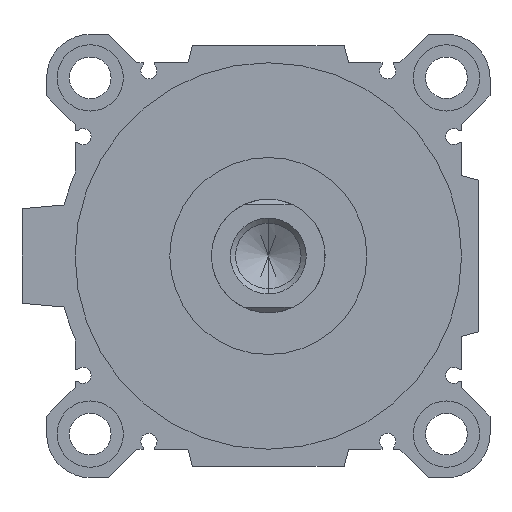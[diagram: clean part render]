
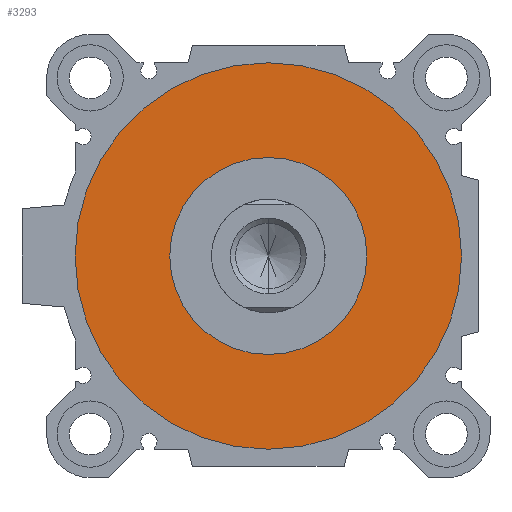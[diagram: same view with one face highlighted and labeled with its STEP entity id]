
A CAD part, left-side view. The second image highlights one B-rep face of the part: STEP entity #3293.
In plain terms, the highlighted planar face has unit normal (-1, 0, 0).
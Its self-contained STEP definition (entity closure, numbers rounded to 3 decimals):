
#115 = CARTESIAN_POINT ( 'NONE',  ( 6.5, 0., 0. ) ) ;
#158 = CARTESIAN_POINT ( 'NONE',  ( 6.5, 0., 0. ) ) ;
#258 = CARTESIAN_POINT ( 'NONE',  ( 6.5, 0., 0. ) ) ;
#403 = ORIENTED_EDGE ( 'NONE', *, *, #983, .T. ) ;
#425 = ORIENTED_EDGE ( 'NONE', *, *, #1870, .F. ) ;
#983 = EDGE_CURVE ( 'NONE', #4544, #1140, #2411, .T. ) ;
#1093 = AXIS2_PLACEMENT_3D ( 'NONE', #4584, #1660, #3366 ) ;
#1140 = VERTEX_POINT ( 'NONE', #2419 ) ;
#1418 = FACE_OUTER_BOUND ( 'NONE', #4300, .T. ) ;
#1419 = CIRCLE ( 'NONE', #1689, 51. ) ;
#1477 = VERTEX_POINT ( 'NONE', #4086 ) ;
#1650 = CARTESIAN_POINT ( 'NONE',  ( 6.5, 0., -26. ) ) ;
#1660 = DIRECTION ( 'NONE',  ( 1., 0., 0. ) ) ;
#1689 = AXIS2_PLACEMENT_3D ( 'NONE', #2016, #4139, #4990 ) ;
#1788 = DIRECTION ( 'NONE',  ( 0., 1., 0. ) ) ;
#1820 = CIRCLE ( 'NONE', #1093, 51. ) ;
#1870 = EDGE_CURVE ( 'NONE', #3821, #1477, #1419, .T. ) ;
#2016 = CARTESIAN_POINT ( 'NONE',  ( 6.5, 0., 0. ) ) ;
#2207 = DIRECTION ( 'NONE',  ( 1., 0., 0. ) ) ;
#2411 = CIRCLE ( 'NONE', #4098, 26. ) ;
#2419 = CARTESIAN_POINT ( 'NONE',  ( 6.5, 0., 26. ) ) ;
#2707 = PLANE ( 'NONE',  #5232 ) ;
#3109 = EDGE_CURVE ( 'NONE', #1140, #4544, #3374, .T. ) ;
#3187 = ORIENTED_EDGE ( 'NONE', *, *, #4171, .F. ) ;
#3195 = DIRECTION ( 'NONE',  ( 1., 0., 0. ) ) ;
#3238 = DIRECTION ( 'NONE',  ( 1., 0., 0. ) ) ;
#3293 = ADVANCED_FACE ( 'NONE', ( #1418, #4815 ), #2707, .F. ) ;
#3366 = DIRECTION ( 'NONE',  ( 0., 0., -1. ) ) ;
#3374 = CIRCLE ( 'NONE', #4619, 26. ) ;
#3475 = EDGE_LOOP ( 'NONE', ( #4368, #403 ) ) ;
#3565 = DIRECTION ( 'NONE',  ( 0., 0., -1. ) ) ;
#3680 = DIRECTION ( 'NONE',  ( 0., 0., -1. ) ) ;
#3821 = VERTEX_POINT ( 'NONE', #5198 ) ;
#4086 = CARTESIAN_POINT ( 'NONE',  ( 6.5, 0., -51. ) ) ;
#4098 = AXIS2_PLACEMENT_3D ( 'NONE', #158, #3195, #3565 ) ;
#4139 = DIRECTION ( 'NONE',  ( 1., 0., 0. ) ) ;
#4171 = EDGE_CURVE ( 'NONE', #1477, #3821, #1820, .T. ) ;
#4300 = EDGE_LOOP ( 'NONE', ( #425, #3187 ) ) ;
#4368 = ORIENTED_EDGE ( 'NONE', *, *, #3109, .T. ) ;
#4544 = VERTEX_POINT ( 'NONE', #1650 ) ;
#4584 = CARTESIAN_POINT ( 'NONE',  ( 6.5, 0., 0. ) ) ;
#4619 = AXIS2_PLACEMENT_3D ( 'NONE', #258, #3238, #3680 ) ;
#4815 = FACE_BOUND ( 'NONE', #3475, .T. ) ;
#4990 = DIRECTION ( 'NONE',  ( 0., 0., -1. ) ) ;
#5198 = CARTESIAN_POINT ( 'NONE',  ( 6.5, 0., 51. ) ) ;
#5232 = AXIS2_PLACEMENT_3D ( 'NONE', #115, #2207, #1788 ) ;
